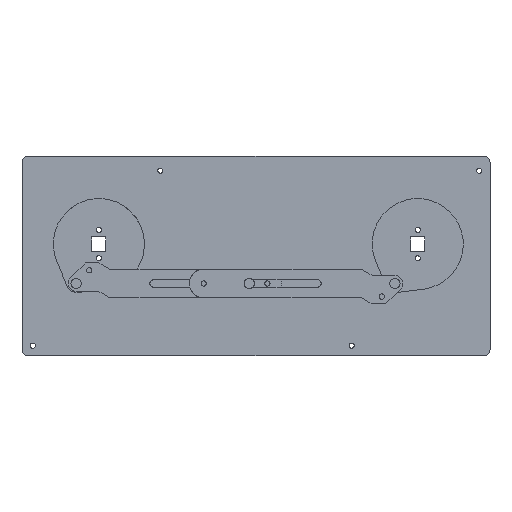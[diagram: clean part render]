
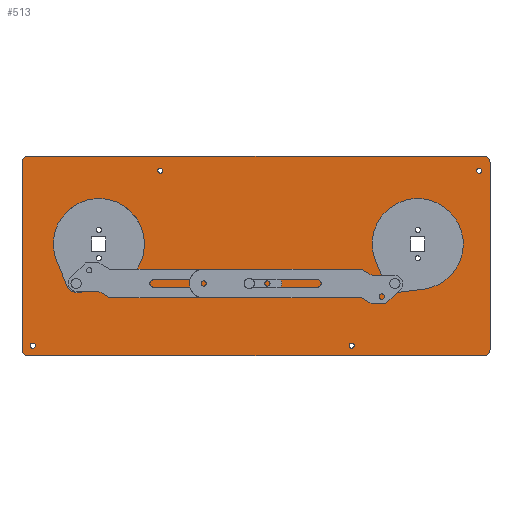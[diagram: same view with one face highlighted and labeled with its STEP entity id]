
A CAD part, top view. The second image highlights one B-rep face of the part: STEP entity #513.
In plain terms, the highlighted planar face has unit normal (0, 0, 1).
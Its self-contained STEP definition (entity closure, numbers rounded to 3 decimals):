
#110=CARTESIAN_POINT('',(9.5,8.8,5.));
#111=DIRECTION('',(0.,0.,-1.));
#112=DIRECTION('',(1.,0.,0.));
#113=AXIS2_PLACEMENT_3D('',#110,#111,#112);
#115=CARTESIAN_POINT('',(9.5,8.8,5.));
#116=DIRECTION('',(0.,0.,-1.));
#117=DIRECTION('',(-1.,0.,0.));
#118=AXIS2_PLACEMENT_3D('',#115,#116,#117);
#120=CARTESIAN_POINT('',(121.5,162.4,5.));
#121=DIRECTION('',(0.,0.,-1.));
#122=DIRECTION('',(1.,0.,0.));
#123=AXIS2_PLACEMENT_3D('',#120,#121,#122);
#125=CARTESIAN_POINT('',(121.5,162.4,5.));
#126=DIRECTION('',(0.,0.,-1.));
#127=DIRECTION('',(-1.,0.,0.));
#128=AXIS2_PLACEMENT_3D('',#125,#126,#127);
#130=CARTESIAN_POINT('',(401.5,162.4,5.));
#131=DIRECTION('',(0.,0.,-1.));
#132=DIRECTION('',(1.,0.,0.));
#133=AXIS2_PLACEMENT_3D('',#130,#131,#132);
#135=CARTESIAN_POINT('',(401.5,162.4,5.));
#136=DIRECTION('',(0.,0.,-1.));
#137=DIRECTION('',(-1.,0.,0.));
#138=AXIS2_PLACEMENT_3D('',#135,#136,#137);
#140=CARTESIAN_POINT('',(289.5,8.8,5.));
#141=DIRECTION('',(0.,0.,-1.));
#142=DIRECTION('',(1.,0.,0.));
#143=AXIS2_PLACEMENT_3D('',#140,#141,#142);
#145=CARTESIAN_POINT('',(289.5,8.8,5.));
#146=DIRECTION('',(0.,0.,-1.));
#147=DIRECTION('',(-1.,0.,0.));
#148=AXIS2_PLACEMENT_3D('',#145,#146,#147);
#150=CARTESIAN_POINT('',(67.5,98.,5.));
#151=DIRECTION('',(0.,0.,-1.));
#152=DIRECTION('',(1.,0.,0.));
#153=AXIS2_PLACEMENT_3D('',#150,#151,#152);
#155=CARTESIAN_POINT('',(67.5,98.,5.));
#156=DIRECTION('',(0.,0.,-1.));
#157=DIRECTION('',(-1.,0.,0.));
#158=AXIS2_PLACEMENT_3D('',#155,#156,#157);
#160=CARTESIAN_POINT('',(347.5,98.,5.));
#161=DIRECTION('',(0.,0.,-1.));
#162=DIRECTION('',(1.,0.,0.));
#163=AXIS2_PLACEMENT_3D('',#160,#161,#162);
#165=CARTESIAN_POINT('',(347.5,98.,5.));
#166=DIRECTION('',(0.,0.,-1.));
#167=DIRECTION('',(-1.,0.,0.));
#168=AXIS2_PLACEMENT_3D('',#165,#166,#167);
#170=DIRECTION('',(1.,0.,0.));
#171=VECTOR('',#170,401.);
#172=CARTESIAN_POINT('',(5.,0.,5.));
#173=LINE('',#172,#171);
#174=CARTESIAN_POINT('',(5.,5.,5.));
#175=DIRECTION('',(0.,0.,1.));
#176=DIRECTION('',(-1.,0.,0.));
#177=AXIS2_PLACEMENT_3D('',#174,#175,#176);
#179=DIRECTION('',(0.,-1.,0.));
#180=VECTOR('',#179,165.);
#181=CARTESIAN_POINT('',(0.,170.,5.));
#182=LINE('',#181,#180);
#183=CARTESIAN_POINT('',(5.,170.,5.));
#184=DIRECTION('',(0.,0.,1.));
#185=DIRECTION('',(0.,1.,0.));
#186=AXIS2_PLACEMENT_3D('',#183,#184,#185);
#188=DIRECTION('',(-1.,0.,0.));
#189=VECTOR('',#188,401.);
#190=CARTESIAN_POINT('',(406.,175.,5.));
#191=LINE('',#190,#189);
#192=CARTESIAN_POINT('',(406.,170.,5.));
#193=DIRECTION('',(0.,0.,1.));
#194=DIRECTION('',(1.,0.,0.));
#195=AXIS2_PLACEMENT_3D('',#192,#193,#194);
#197=DIRECTION('',(0.,1.,0.));
#198=VECTOR('',#197,165.);
#199=CARTESIAN_POINT('',(411.,5.,5.));
#200=LINE('',#199,#198);
#201=CARTESIAN_POINT('',(406.,5.,5.));
#202=DIRECTION('',(0.,0.,1.));
#203=DIRECTION('',(0.,-1.,0.));
#204=AXIS2_PLACEMENT_3D('',#201,#202,#203);
#290=CARTESIAN_POINT('',(5.,0.,5.));
#291=CARTESIAN_POINT('',(406.,0.,5.));
#292=VERTEX_POINT('',#290);
#293=VERTEX_POINT('',#291);
#294=CARTESIAN_POINT('',(411.,5.,5.));
#295=CARTESIAN_POINT('',(411.,170.,5.));
#296=VERTEX_POINT('',#294);
#297=VERTEX_POINT('',#295);
#298=CARTESIAN_POINT('',(406.,175.,5.));
#299=CARTESIAN_POINT('',(5.,175.,5.));
#300=VERTEX_POINT('',#298);
#301=VERTEX_POINT('',#299);
#302=CARTESIAN_POINT('',(0.,170.,5.));
#303=CARTESIAN_POINT('',(0.,5.,5.));
#304=VERTEX_POINT('',#302);
#305=VERTEX_POINT('',#303);
#330=CARTESIAN_POINT('',(11.75,8.8,5.));
#331=CARTESIAN_POINT('',(7.25,8.8,5.));
#332=VERTEX_POINT('',#330);
#333=VERTEX_POINT('',#331);
#334=CARTESIAN_POINT('',(123.75,162.4,5.));
#335=CARTESIAN_POINT('',(119.25,162.4,5.));
#336=VERTEX_POINT('',#334);
#337=VERTEX_POINT('',#335);
#338=CARTESIAN_POINT('',(403.75,162.4,5.));
#339=CARTESIAN_POINT('',(399.25,162.4,5.));
#340=VERTEX_POINT('',#338);
#341=VERTEX_POINT('',#339);
#342=CARTESIAN_POINT('',(291.75,8.8,5.));
#343=CARTESIAN_POINT('',(287.25,8.8,5.));
#344=VERTEX_POINT('',#342);
#345=VERTEX_POINT('',#343);
#346=CARTESIAN_POINT('',(102.5,98.,5.));
#347=CARTESIAN_POINT('',(32.5,98.,5.));
#348=VERTEX_POINT('',#346);
#349=VERTEX_POINT('',#347);
#350=CARTESIAN_POINT('',(382.5,98.,5.));
#351=CARTESIAN_POINT('',(312.5,98.,5.));
#352=VERTEX_POINT('',#350);
#353=VERTEX_POINT('',#351);
#457=CARTESIAN_POINT('',(0.,0.,5.));
#458=DIRECTION('',(0.,0.,1.));
#459=DIRECTION('',(1.,0.,0.));
#460=AXIS2_PLACEMENT_3D('',#457,#458,#459);
#461=PLANE('',#460);
#463=ORIENTED_EDGE('',*,*,#462,.F.);
#465=ORIENTED_EDGE('',*,*,#464,.F.);
#467=ORIENTED_EDGE('',*,*,#466,.F.);
#469=ORIENTED_EDGE('',*,*,#468,.F.);
#471=ORIENTED_EDGE('',*,*,#470,.F.);
#473=ORIENTED_EDGE('',*,*,#472,.F.);
#475=ORIENTED_EDGE('',*,*,#474,.F.);
#477=ORIENTED_EDGE('',*,*,#476,.F.);
#478=EDGE_LOOP('',(#463,#465,#467,#469,#471,#473,#475,#477));
#479=FACE_OUTER_BOUND('',#478,.F.);
#481=ORIENTED_EDGE('',*,*,#480,.F.);
#483=ORIENTED_EDGE('',*,*,#482,.F.);
#484=EDGE_LOOP('',(#481,#483));
#485=FACE_BOUND('',#484,.F.);
#487=ORIENTED_EDGE('',*,*,#486,.F.);
#489=ORIENTED_EDGE('',*,*,#488,.F.);
#490=EDGE_LOOP('',(#487,#489));
#491=FACE_BOUND('',#490,.F.);
#493=ORIENTED_EDGE('',*,*,#492,.F.);
#495=ORIENTED_EDGE('',*,*,#494,.F.);
#496=EDGE_LOOP('',(#493,#495));
#497=FACE_BOUND('',#496,.F.);
#499=ORIENTED_EDGE('',*,*,#498,.F.);
#500=ORIENTED_EDGE('',*,*,#363,.F.);
#501=EDGE_LOOP('',(#499,#500));
#502=FACE_BOUND('',#501,.F.);
#504=ORIENTED_EDGE('',*,*,#503,.F.);
#506=ORIENTED_EDGE('',*,*,#505,.F.);
#507=EDGE_LOOP('',(#504,#506));
#508=FACE_BOUND('',#507,.F.);
#509=ORIENTED_EDGE('',*,*,#437,.F.);
#510=ORIENTED_EDGE('',*,*,#451,.F.);
#511=EDGE_LOOP('',(#509,#510));
#512=FACE_BOUND('',#511,.F.);
#114=CIRCLE('',#113,2.25);
#119=CIRCLE('',#118,2.25);
#124=CIRCLE('',#123,2.25);
#129=CIRCLE('',#128,2.25);
#134=CIRCLE('',#133,2.25);
#139=CIRCLE('',#138,2.25);
#144=CIRCLE('',#143,2.25);
#149=CIRCLE('',#148,2.25);
#154=CIRCLE('',#153,35.);
#159=CIRCLE('',#158,35.);
#164=CIRCLE('',#163,35.);
#169=CIRCLE('',#168,35.);
#178=CIRCLE('',#177,5.);
#187=CIRCLE('',#186,5.);
#196=CIRCLE('',#195,5.);
#205=CIRCLE('',#204,5.);
#363=EDGE_CURVE('',#349,#348,#159,.T.);
#437=EDGE_CURVE('',#332,#333,#114,.T.);
#451=EDGE_CURVE('',#333,#332,#119,.T.);
#462=EDGE_CURVE('',#292,#293,#173,.T.);
#464=EDGE_CURVE('',#305,#292,#178,.T.);
#466=EDGE_CURVE('',#304,#305,#182,.T.);
#468=EDGE_CURVE('',#301,#304,#187,.T.);
#470=EDGE_CURVE('',#300,#301,#191,.T.);
#472=EDGE_CURVE('',#297,#300,#196,.T.);
#474=EDGE_CURVE('',#296,#297,#200,.T.);
#476=EDGE_CURVE('',#293,#296,#205,.T.);
#480=EDGE_CURVE('',#336,#337,#124,.T.);
#482=EDGE_CURVE('',#337,#336,#129,.T.);
#486=EDGE_CURVE('',#340,#341,#134,.T.);
#488=EDGE_CURVE('',#341,#340,#139,.T.);
#492=EDGE_CURVE('',#344,#345,#144,.T.);
#494=EDGE_CURVE('',#345,#344,#149,.T.);
#498=EDGE_CURVE('',#348,#349,#154,.T.);
#503=EDGE_CURVE('',#352,#353,#164,.T.);
#505=EDGE_CURVE('',#353,#352,#169,.T.);
#513=ADVANCED_FACE('',(#479,#485,#491,#497,#502,#508,#512),#461,.T.);
